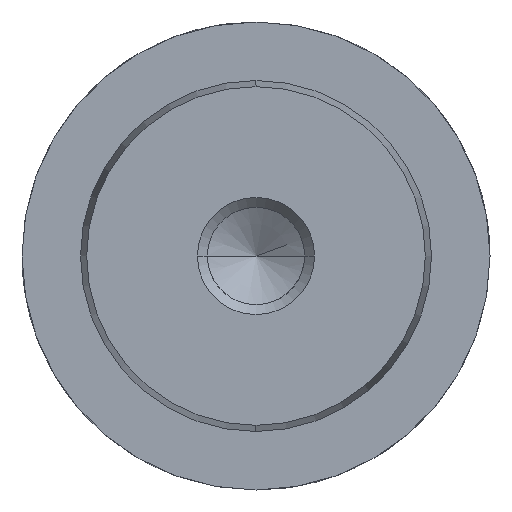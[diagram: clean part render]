
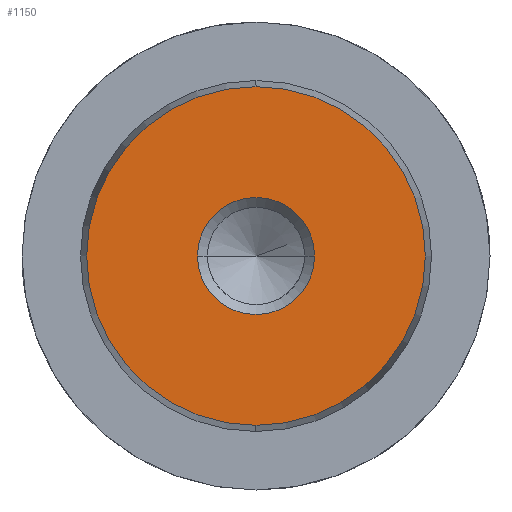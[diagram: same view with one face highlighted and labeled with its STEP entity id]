
A CAD part, left-side view. The second image highlights one B-rep face of the part: STEP entity #1150.
In plain terms, the highlighted planar face has unit normal (-1, 0, 0).
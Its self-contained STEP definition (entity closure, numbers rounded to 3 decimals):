
#1064=CARTESIAN_POINT('Vertex',(0.,0.,-11.578)) ;
#1067=CARTESIAN_POINT('Axis2P3D Location',(0.,0.,0.)) ;
#1071=CARTESIAN_POINT('Vertex',(0.,11.578,0.)) ;
#1074=CARTESIAN_POINT('Axis2P3D Location',(0.,0.,0.)) ;
#1078=CARTESIAN_POINT('Vertex',(0.,0.,11.578)) ;
#1100=CARTESIAN_POINT('Axis2P3D Location',(0.,0.,0.)) ;
#1104=CARTESIAN_POINT('Vertex',(0.,-11.578,0.)) ;
#1107=CARTESIAN_POINT('Axis2P3D Location',(0.,0.,0.)) ;
#1121=CARTESIAN_POINT('Axis2P3D Location',(0.,0.,0.)) ;
#1132=CARTESIAN_POINT('Axis2P3D Location',(0.,0.,0.)) ;
#1136=CARTESIAN_POINT('Vertex',(0.,4.,0.)) ;
#1138=CARTESIAN_POINT('Vertex',(0.,-4.,0.)) ;
#1141=CARTESIAN_POINT('Axis2P3D Location',(0.,0.,0.)) ;
#1068=DIRECTION('Axis2P3D Direction',(1.,0.,-0.)) ;
#1075=DIRECTION('Axis2P3D Direction',(1.,0.,-0.)) ;
#1101=DIRECTION('Axis2P3D Direction',(1.,0.,-0.)) ;
#1108=DIRECTION('Axis2P3D Direction',(1.,0.,-0.)) ;
#1122=DIRECTION('Axis2P3D Direction',(1.,0.,-0.)) ;
#1123=DIRECTION('Axis2P3D XDirection',(-0.,0.,-1.)) ;
#1133=DIRECTION('Axis2P3D Direction',(1.,0.,-0.)) ;
#1142=DIRECTION('Axis2P3D Direction',(1.,0.,-0.)) ;
#1069=AXIS2_PLACEMENT_3D('Circle Axis2P3D',#1067,#1068,$) ;
#1076=AXIS2_PLACEMENT_3D('Circle Axis2P3D',#1074,#1075,$) ;
#1102=AXIS2_PLACEMENT_3D('Circle Axis2P3D',#1100,#1101,$) ;
#1109=AXIS2_PLACEMENT_3D('Circle Axis2P3D',#1107,#1108,$) ;
#1124=AXIS2_PLACEMENT_3D('Plane Axis2P3D',#1121,#1122,#1123) ;
#1134=AXIS2_PLACEMENT_3D('Circle Axis2P3D',#1132,#1133,$) ;
#1143=AXIS2_PLACEMENT_3D('Circle Axis2P3D',#1141,#1142,$) ;
#1127=ORIENTED_EDGE('',*,*,#1073,.F.) ;
#1128=ORIENTED_EDGE('',*,*,#1111,.F.) ;
#1129=ORIENTED_EDGE('',*,*,#1106,.F.) ;
#1130=ORIENTED_EDGE('',*,*,#1080,.F.) ;
#1147=ORIENTED_EDGE('',*,*,#1140,.T.) ;
#1148=ORIENTED_EDGE('',*,*,#1145,.T.) ;
#1149=FACE_BOUND('',#1146,.T.) ;
#1150=ADVANCED_FACE('718-24x125',(#1131,#1149),#1125,.F.) ;
#1070=CIRCLE('generated circle',#1069,11.578) ;
#1077=CIRCLE('generated circle',#1076,11.578) ;
#1103=CIRCLE('generated circle',#1102,11.578) ;
#1110=CIRCLE('generated circle',#1109,11.578) ;
#1135=CIRCLE('generated circle',#1134,4.) ;
#1144=CIRCLE('generated circle',#1143,4.) ;
#1073=EDGE_CURVE('',#1065,#1072,#1070,.T.) ;
#1080=EDGE_CURVE('',#1072,#1079,#1077,.T.) ;
#1106=EDGE_CURVE('',#1079,#1105,#1103,.T.) ;
#1111=EDGE_CURVE('',#1105,#1065,#1110,.T.) ;
#1140=EDGE_CURVE('',#1137,#1139,#1135,.T.) ;
#1145=EDGE_CURVE('',#1139,#1137,#1144,.T.) ;
#1126=EDGE_LOOP('',(#1127,#1128,#1129,#1130)) ;
#1146=EDGE_LOOP('',(#1147,#1148)) ;
#1131=FACE_OUTER_BOUND('',#1126,.T.) ;
#1125=PLANE('Plane',#1124) ;
#1065=VERTEX_POINT('',#1064) ;
#1072=VERTEX_POINT('',#1071) ;
#1079=VERTEX_POINT('',#1078) ;
#1105=VERTEX_POINT('',#1104) ;
#1137=VERTEX_POINT('',#1136) ;
#1139=VERTEX_POINT('',#1138) ;
